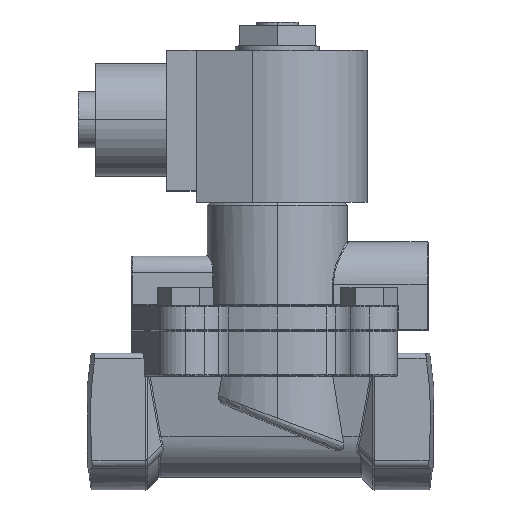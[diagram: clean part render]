
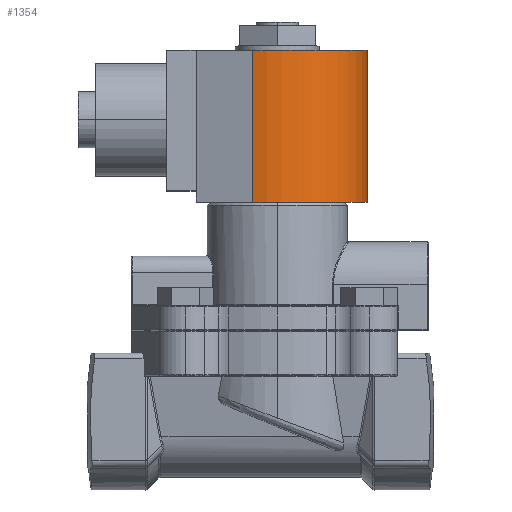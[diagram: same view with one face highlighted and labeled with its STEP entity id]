
A CAD part, top view. The second image highlights one B-rep face of the part: STEP entity #1354.
In plain terms, the highlighted cylindrical face has radius 20.32 mm (diameter 40.64 mm), a partial arc.
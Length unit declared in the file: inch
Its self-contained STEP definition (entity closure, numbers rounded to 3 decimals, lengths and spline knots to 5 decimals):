
#28 = EDGE_CURVE ( 'NONE', #1356, #14375, #11112, .T. ) ;
#304 = CARTESIAN_POINT ( 'NONE',  ( 0.8, 2.5825, 0. ) ) ;
#556 = CARTESIAN_POINT ( 'NONE',  ( 0., 2.5825, 0. ) ) ;
#878 = DIRECTION ( 'NONE',  ( 0., -1., 0. ) ) ;
#1354 = ADVANCED_FACE ( 'Defeatured_0_272', ( #13915 ), #9918, .T. ) ;
#1356 = VERTEX_POINT ( 'NONE', #16677 ) ;
#1677 = DIRECTION ( 'NONE',  ( 1., 0., 0. ) ) ;
#1772 = AXIS2_PLACEMENT_3D ( 'NONE', #556, #16782, #3283 ) ;
#2840 = VERTEX_POINT ( 'NONE', #14587 ) ;
#3148 = EDGE_CURVE ( 'NONE', #2840, #13299, #17372, .T. ) ;
#3283 = DIRECTION ( 'NONE',  ( -1., 0., 0. ) ) ;
#3763 = AXIS2_PLACEMENT_3D ( 'NONE', #6205, #16969, #15625 ) ;
#5197 = AXIS2_PLACEMENT_3D ( 'NONE', #7167, #12491, #1677 ) ;
#6205 = CARTESIAN_POINT ( 'NONE',  ( 0., 1.2325, 0. ) ) ;
#7167 = CARTESIAN_POINT ( 'NONE',  ( 0., 2.5825, 0. ) ) ;
#8302 = VECTOR ( 'NONE', #878, 39.37008 ) ;
#8668 = LINE ( 'NONE', #13010, #8302 ) ;
#9918 = CYLINDRICAL_SURFACE ( 'NONE', #5197, 0.8 ) ;
#10825 = LINE ( 'NONE', #17415, #15949 ) ;
#11112 = CIRCLE ( 'NONE', #1772, 0.8 ) ;
#11430 = EDGE_CURVE ( 'NONE', #14375, #13299, #10825, .T. ) ;
#12491 = DIRECTION ( 'NONE',  ( 0., -1., 0. ) ) ;
#13010 = CARTESIAN_POINT ( 'NONE',  ( -0.22081, 2.5825, 0.76892 ) ) ;
#13071 = EDGE_CURVE ( 'NONE', #1356, #2840, #8668, .T. ) ;
#13276 = ORIENTED_EDGE ( 'NONE', *, *, #28, .F. ) ;
#13299 = VERTEX_POINT ( 'NONE', #16382 ) ;
#13363 = ORIENTED_EDGE ( 'NONE', *, *, #3148, .T. ) ;
#13520 = ORIENTED_EDGE ( 'NONE', *, *, #11430, .F. ) ;
#13717 = EDGE_LOOP ( 'NONE', ( #13520, #13276, #16763, #13363 ) ) ;
#13915 = FACE_OUTER_BOUND ( 'NONE', #13717, .T. ) ;
#14375 = VERTEX_POINT ( 'NONE', #304 ) ;
#14572 = DIRECTION ( 'NONE',  ( 0., -1., 0. ) ) ;
#14587 = CARTESIAN_POINT ( 'NONE',  ( -0.22081, 1.2325, 0.76892 ) ) ;
#15625 = DIRECTION ( 'NONE',  ( -1., 0., 0. ) ) ;
#15949 = VECTOR ( 'NONE', #14572, 39.37008 ) ;
#16382 = CARTESIAN_POINT ( 'NONE',  ( 0.8, 1.2325, 0. ) ) ;
#16677 = CARTESIAN_POINT ( 'NONE',  ( -0.22081, 2.5825, 0.76892 ) ) ;
#16763 = ORIENTED_EDGE ( 'NONE', *, *, #13071, .T. ) ;
#16782 = DIRECTION ( 'NONE',  ( 0., 1., 0. ) ) ;
#16969 = DIRECTION ( 'NONE',  ( 0., 1., 0. ) ) ;
#17372 = CIRCLE ( 'NONE', #3763, 0.8 ) ;
#17415 = CARTESIAN_POINT ( 'NONE',  ( 0.8, 2.5825, 0. ) ) ;
